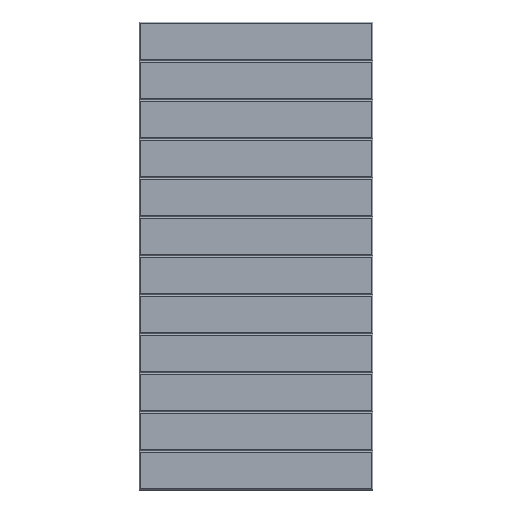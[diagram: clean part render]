
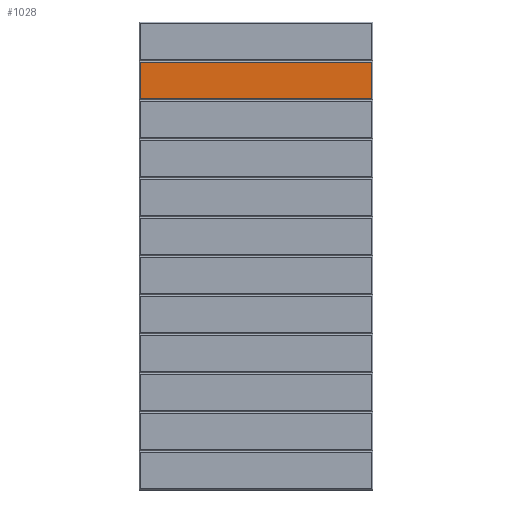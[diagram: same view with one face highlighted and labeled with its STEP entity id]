
A CAD part, top view. The second image highlights one B-rep face of the part: STEP entity #1028.
In plain terms, the highlighted planar face has unit normal (0, 0, 1).
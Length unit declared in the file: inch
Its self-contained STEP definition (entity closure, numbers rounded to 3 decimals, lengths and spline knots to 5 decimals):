
#50=FACE_OUTER_BOUND('',#115,.T.);
#115=EDGE_LOOP('',(#786,#787,#788,#789));
#190=LINE('',#1517,#331);
#213=LINE('',#1567,#354);
#227=LINE('',#1594,#368);
#249=LINE('',#1630,#390);
#331=VECTOR('',#1218,0.3937);
#354=VECTOR('',#1255,0.3937);
#368=VECTOR('',#1279,0.3937);
#390=VECTOR('',#1323,0.3937);
#464=VERTEX_POINT('',#1511);
#466=VERTEX_POINT('',#1515);
#485=VERTEX_POINT('',#1564);
#486=VERTEX_POINT('',#1566);
#550=EDGE_CURVE('',#464,#466,#190,.T.);
#573=EDGE_CURVE('',#486,#485,#213,.T.);
#587=EDGE_CURVE('',#464,#485,#227,.T.);
#609=EDGE_CURVE('',#486,#466,#249,.T.);
#786=ORIENTED_EDGE('',*,*,#550,.T.);
#787=ORIENTED_EDGE('',*,*,#609,.F.);
#788=ORIENTED_EDGE('',*,*,#573,.T.);
#789=ORIENTED_EDGE('',*,*,#587,.F.);
#963=PLANE('',#1115);
#1028=ADVANCED_FACE('',(#50),#963,.T.);
#1115=AXIS2_PLACEMENT_3D('',#1629,#1321,#1322);
#1218=DIRECTION('',(1.,0.,0.));
#1255=DIRECTION('',(-1.,0.,0.));
#1279=DIRECTION('',(0.,1.,0.));
#1321=DIRECTION('center_axis',(0.,0.,1.));
#1322=DIRECTION('ref_axis',(1.,0.,0.));
#1323=DIRECTION('',(0.,-1.,0.));
#1511=CARTESIAN_POINT('',(-23.75,32.25,0.5));
#1515=CARTESIAN_POINT('',(23.75,32.25,0.5));
#1517=CARTESIAN_POINT('',(13.,32.25,0.5));
#1564=CARTESIAN_POINT('',(-23.75,39.75,0.5));
#1566=CARTESIAN_POINT('',(23.75,39.75,0.5));
#1567=CARTESIAN_POINT('',(-13.,39.75,0.5));
#1594=CARTESIAN_POINT('',(-23.75,24.,0.5));
#1629=CARTESIAN_POINT('Origin',(0.,0.,0.5));
#1630=CARTESIAN_POINT('',(23.75,-24.,0.5));
